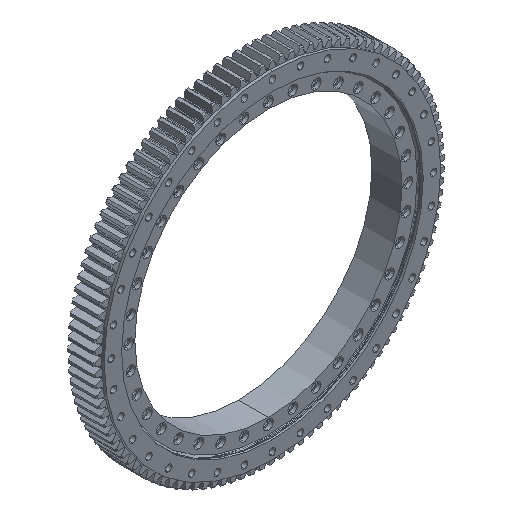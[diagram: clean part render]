
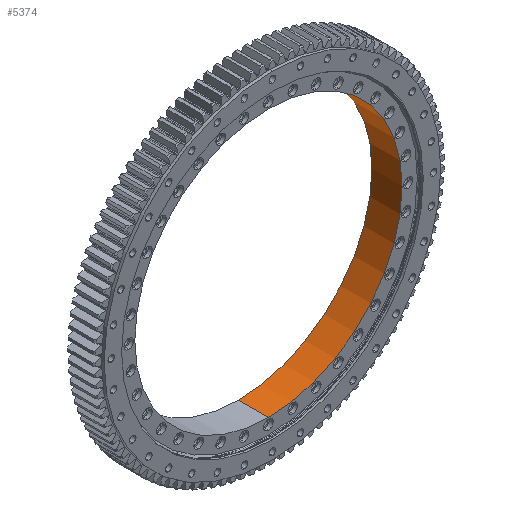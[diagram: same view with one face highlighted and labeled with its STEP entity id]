
A CAD part, isometric view. The second image highlights one B-rep face of the part: STEP entity #5374.
In plain terms, the highlighted cylindrical face has radius 435 mm (diameter 870 mm), a partial arc.
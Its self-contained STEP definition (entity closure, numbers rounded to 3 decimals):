
#163 = AXIS2_PLACEMENT_3D ( 'NONE', #11602, #5077, #29451 ) ;
#767 = LINE ( 'NONE', #16006, #11902 ) ;
#1473 = VERTEX_POINT ( 'NONE', #25656 ) ;
#2836 = ORIENTED_EDGE ( 'NONE', *, *, #25187, .T. ) ;
#4066 = DIRECTION ( 'NONE',  ( 0., 0., -1. ) ) ;
#4428 = EDGE_CURVE ( 'NONE', #18176, #33677, #22678, .T. ) ;
#5077 = DIRECTION ( 'NONE',  ( 0., -1., 0. ) ) ;
#5216 = CARTESIAN_POINT ( 'NONE',  ( 0., -2.145, 435. ) ) ;
#5374 = ADVANCED_FACE ( 'NONE', ( #35198 ), #5465, .F. ) ;
#5465 = CYLINDRICAL_SURFACE ( 'NONE', #163, 435. ) ;
#5533 = CARTESIAN_POINT ( 'NONE',  ( 0., -2.145, -435. ) ) ;
#6085 = CARTESIAN_POINT ( 'NONE',  ( 0., -100.145, 0. ) ) ;
#6689 = CIRCLE ( 'NONE', #11739, 435. ) ;
#7228 = DIRECTION ( 'NONE',  ( 0., -1., 0. ) ) ;
#9988 = CARTESIAN_POINT ( 'NONE',  ( 0., 0., 435. ) ) ;
#10192 = VERTEX_POINT ( 'NONE', #16092 ) ;
#10647 = AXIS2_PLACEMENT_3D ( 'NONE', #37362, #7228, #4066 ) ;
#11602 = CARTESIAN_POINT ( 'NONE',  ( 0., 0., 0. ) ) ;
#11739 = AXIS2_PLACEMENT_3D ( 'NONE', #6085, #21145, #39180 ) ;
#11902 = VECTOR ( 'NONE', #15828, 1000. ) ;
#15828 = DIRECTION ( 'NONE',  ( 0., -1., 0. ) ) ;
#16006 = CARTESIAN_POINT ( 'NONE',  ( 0., 0., -435. ) ) ;
#16092 = CARTESIAN_POINT ( 'NONE',  ( 0., -100.145, 435. ) ) ;
#16119 = ORIENTED_EDGE ( 'NONE', *, *, #23715, .T. ) ;
#17923 = VECTOR ( 'NONE', #22090, 1000. ) ;
#18176 = VERTEX_POINT ( 'NONE', #5533 ) ;
#19172 = EDGE_CURVE ( 'NONE', #33677, #10192, #37136, .T. ) ;
#21145 = DIRECTION ( 'NONE',  ( 0., -1., 0. ) ) ;
#22090 = DIRECTION ( 'NONE',  ( 0., -1., 0. ) ) ;
#22678 = CIRCLE ( 'NONE', #10647, 435. ) ;
#23715 = EDGE_CURVE ( 'NONE', #1473, #10192, #6689, .T. ) ;
#25187 = EDGE_CURVE ( 'NONE', #18176, #1473, #767, .T. ) ;
#25656 = CARTESIAN_POINT ( 'NONE',  ( 0., -100.145, -435. ) ) ;
#26465 = ORIENTED_EDGE ( 'NONE', *, *, #19172, .F. ) ;
#28485 = EDGE_LOOP ( 'NONE', ( #26465, #34737, #2836, #16119 ) ) ;
#29451 = DIRECTION ( 'NONE',  ( 0., 0., -1. ) ) ;
#33677 = VERTEX_POINT ( 'NONE', #5216 ) ;
#34737 = ORIENTED_EDGE ( 'NONE', *, *, #4428, .F. ) ;
#35198 = FACE_OUTER_BOUND ( 'NONE', #28485, .T. ) ;
#37136 = LINE ( 'NONE', #9988, #17923 ) ;
#37362 = CARTESIAN_POINT ( 'NONE',  ( 0., -2.145, 0. ) ) ;
#39180 = DIRECTION ( 'NONE',  ( 0., 0., -1. ) ) ;
